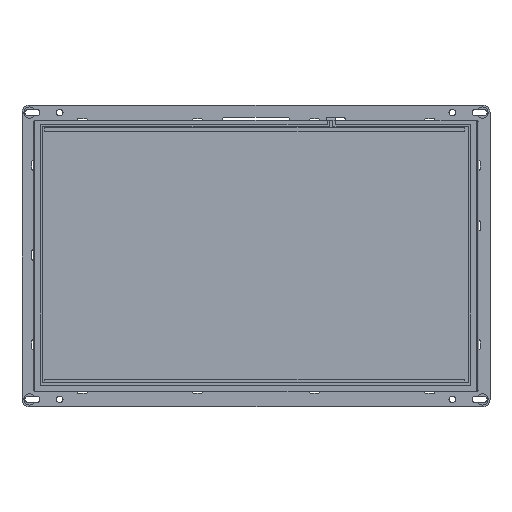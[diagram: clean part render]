
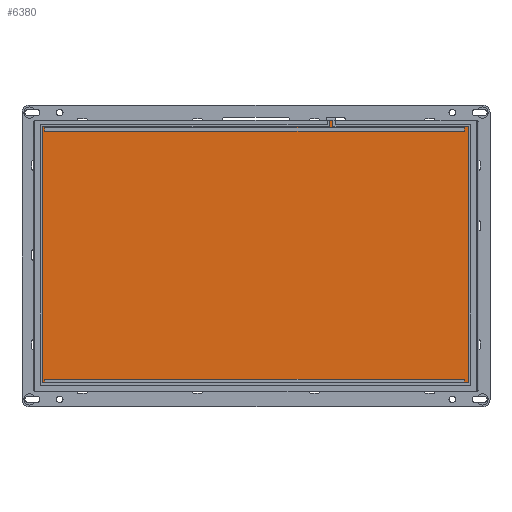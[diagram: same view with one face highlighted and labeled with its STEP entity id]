
A CAD part, top view. The second image highlights one B-rep face of the part: STEP entity #6380.
In plain terms, the highlighted planar face has unit normal (0, 0, 1) as drawn and (0, 1, 0) by its records, which use the part's own axes.
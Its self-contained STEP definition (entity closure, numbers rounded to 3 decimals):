
#133 = VECTOR ( 'NONE', #18846, 1000. ) ;
#206 = CARTESIAN_POINT ( 'NONE',  ( 0., 1.5, 67.3 ) ) ;
#301 = LINE ( 'NONE', #20073, #25330 ) ;
#356 = DIRECTION ( 'NONE',  ( 0., 0., 1. ) ) ;
#1356 = CARTESIAN_POINT ( 'NONE',  ( -112.8, 1.5, 67.3 ) ) ;
#1544 = ORIENTED_EDGE ( 'NONE', *, *, #14802, .T. ) ;
#1867 = ORIENTED_EDGE ( 'NONE', *, *, #18712, .T. ) ;
#2187 = DIRECTION ( 'NONE',  ( 1., 0., 0. ) ) ;
#2304 = LINE ( 'NONE', #20044, #18206 ) ;
#2335 = VERTEX_POINT ( 'NONE', #18086 ) ;
#2440 = VECTOR ( 'NONE', #9225, 1000. ) ;
#2463 = VECTOR ( 'NONE', #12268, 1000. ) ;
#2764 = VERTEX_POINT ( 'NONE', #19720 ) ;
#2828 = CARTESIAN_POINT ( 'NONE',  ( 110.682, 1.5, 0. ) ) ;
#3072 = VECTOR ( 'NONE', #21077, 1000. ) ;
#3245 = CARTESIAN_POINT ( 'NONE',  ( -111.786, 1.5, 0. ) ) ;
#3412 = VERTEX_POINT ( 'NONE', #1356 ) ;
#3749 = LINE ( 'NONE', #12630, #20400 ) ;
#4216 = CARTESIAN_POINT ( 'NONE',  ( 0., 1.5, 0. ) ) ;
#4509 = DIRECTION ( 'NONE',  ( 0., 1., 0. ) ) ;
#4576 = LINE ( 'NONE', #24072, #2440 ) ;
#5236 = CARTESIAN_POINT ( 'NONE',  ( 110.682, 1.5, 65.3 ) ) ;
#5280 = ORIENTED_EDGE ( 'NONE', *, *, #12071, .T. ) ;
#5306 = DIRECTION ( 'NONE',  ( 0., 0., -1. ) ) ;
#5375 = CARTESIAN_POINT ( 'NONE',  ( 0., 1.5, 66.8 ) ) ;
#5445 = CARTESIAN_POINT ( 'NONE',  ( 41.088, 1.5, -72. ) ) ;
#5461 = CARTESIAN_POINT ( 'NONE',  ( 110.682, 1.5, -68. ) ) ;
#5535 = EDGE_CURVE ( 'NONE', #23980, #25592, #4576, .T. ) ;
#5621 = VERTEX_POINT ( 'NONE', #26517 ) ;
#5729 = LINE ( 'NONE', #3245, #22850 ) ;
#5823 = VERTEX_POINT ( 'NONE', #27670 ) ;
#6210 = EDGE_LOOP ( 'NONE', ( #19296, #23078, #7119, #24718 ) ) ;
#6380 = ADVANCED_FACE ( 'NONE', ( #8440, #15149, #6830 ), #23868, .T. ) ;
#6513 = VERTEX_POINT ( 'NONE', #5236 ) ;
#6663 = ORIENTED_EDGE ( 'NONE', *, *, #5535, .T. ) ;
#6771 = VERTEX_POINT ( 'NONE', #28308 ) ;
#6776 = ORIENTED_EDGE ( 'NONE', *, *, #25614, .T. ) ;
#6830 = FACE_BOUND ( 'NONE', #6210, .T. ) ;
#7119 = ORIENTED_EDGE ( 'NONE', *, *, #24007, .T. ) ;
#7446 = LINE ( 'NONE', #16325, #13559 ) ;
#8440 = FACE_OUTER_BOUND ( 'NONE', #21601, .T. ) ;
#8929 = LINE ( 'NONE', #206, #16786 ) ;
#9225 = DIRECTION ( 'NONE',  ( 0., 0., -1. ) ) ;
#9436 = LINE ( 'NONE', #25408, #25964 ) ;
#9649 = VERTEX_POINT ( 'NONE', #27679 ) ;
#9761 = EDGE_CURVE ( 'NONE', #22268, #27254, #25789, .T. ) ;
#9779 = CARTESIAN_POINT ( 'NONE',  ( 0., 1.5, -68.5 ) ) ;
#9905 = ORIENTED_EDGE ( 'NONE', *, *, #12716, .T. ) ;
#10022 = DIRECTION ( 'NONE',  ( 0., 0., 1. ) ) ;
#10024 = DIRECTION ( 'NONE',  ( 0., 0., -1. ) ) ;
#10312 = EDGE_CURVE ( 'NONE', #6771, #23980, #301, .T. ) ;
#11003 = VECTOR ( 'NONE', #25457, 1000. ) ;
#11131 = ORIENTED_EDGE ( 'NONE', *, *, #17597, .T. ) ;
#11420 = LINE ( 'NONE', #13739, #16603 ) ;
#11434 = CARTESIAN_POINT ( 'NONE',  ( -111.786, 1.5, 65.3 ) ) ;
#11577 = LINE ( 'NONE', #2828, #25591 ) ;
#11709 = VECTOR ( 'NONE', #21303, 1000. ) ;
#11798 = ORIENTED_EDGE ( 'NONE', *, *, #10312, .T. ) ;
#12021 = CARTESIAN_POINT ( 'NONE',  ( 41.088, 1.5, -68.5 ) ) ;
#12071 = EDGE_CURVE ( 'NONE', #6513, #9649, #11577, .T. ) ;
#12212 = LINE ( 'NONE', #5375, #3072 ) ;
#12268 = DIRECTION ( 'NONE',  ( 1., 0., 0. ) ) ;
#12295 = VERTEX_POINT ( 'NONE', #22145 ) ;
#12400 = LINE ( 'NONE', #9779, #11003 ) ;
#12630 = CARTESIAN_POINT ( 'NONE',  ( 0., 1.5, 65.3 ) ) ;
#12716 = EDGE_CURVE ( 'NONE', #12295, #6771, #25463, .T. ) ;
#13196 = ORIENTED_EDGE ( 'NONE', *, *, #15558, .T. ) ;
#13279 = CARTESIAN_POINT ( 'NONE',  ( -111.786, 1.5, -66. ) ) ;
#13559 = VECTOR ( 'NONE', #25179, 1000. ) ;
#13645 = ORIENTED_EDGE ( 'NONE', *, *, #24335, .T. ) ;
#13739 = CARTESIAN_POINT ( 'NONE',  ( 39.168, 1.5, 0. ) ) ;
#13881 = EDGE_CURVE ( 'NONE', #5621, #25592, #18951, .T. ) ;
#14740 = VERTEX_POINT ( 'NONE', #11434 ) ;
#14802 = EDGE_CURVE ( 'NONE', #2335, #2764, #12400, .T. ) ;
#14955 = VECTOR ( 'NONE', #25607, 1000. ) ;
#15149 = FACE_BOUND ( 'NONE', #21717, .T. ) ;
#15191 = VERTEX_POINT ( 'NONE', #27263 ) ;
#15558 = EDGE_CURVE ( 'NONE', #5621, #2335, #11420, .T. ) ;
#15688 = CARTESIAN_POINT ( 'NONE',  ( 110.682, 1.5, -66. ) ) ;
#16220 = DIRECTION ( 'NONE',  ( 0., 0., 1. ) ) ;
#16325 = CARTESIAN_POINT ( 'NONE',  ( 110.682, 1.5, 0. ) ) ;
#16427 = AXIS2_PLACEMENT_3D ( 'NONE', #4216, #4509, #2187 ) ;
#16603 = VECTOR ( 'NONE', #356, 1000. ) ;
#16762 = CARTESIAN_POINT ( 'NONE',  ( 112.8, 1.5, 0. ) ) ;
#16786 = VECTOR ( 'NONE', #25332, 1000. ) ;
#17064 = CARTESIAN_POINT ( 'NONE',  ( 117., 1.5, -72. ) ) ;
#17133 = DIRECTION ( 'NONE',  ( 1., 0., 0. ) ) ;
#17597 = EDGE_CURVE ( 'NONE', #9649, #5823, #12212, .T. ) ;
#18086 = CARTESIAN_POINT ( 'NONE',  ( 39.168, 1.5, -68.5 ) ) ;
#18178 = ORIENTED_EDGE ( 'NONE', *, *, #13881, .F. ) ;
#18206 = VECTOR ( 'NONE', #10024, 1000. ) ;
#18461 = EDGE_CURVE ( 'NONE', #2764, #3412, #9436, .T. ) ;
#18712 = EDGE_CURVE ( 'NONE', #14740, #6513, #3749, .T. ) ;
#18846 = DIRECTION ( 'NONE',  ( 1., 0., 0. ) ) ;
#18951 = LINE ( 'NONE', #17064, #2463 ) ;
#19296 = ORIENTED_EDGE ( 'NONE', *, *, #9761, .T. ) ;
#19650 = DIRECTION ( 'NONE',  ( -1., 0., 0. ) ) ;
#19720 = CARTESIAN_POINT ( 'NONE',  ( -112.8, 1.5, -68.5 ) ) ;
#20044 = CARTESIAN_POINT ( 'NONE',  ( -111.786, 1.5, 0. ) ) ;
#20073 = CARTESIAN_POINT ( 'NONE',  ( 0., 1.5, -68.5 ) ) ;
#20400 = VECTOR ( 'NONE', #17133, 1000. ) ;
#21077 = DIRECTION ( 'NONE',  ( -1., 0., 0. ) ) ;
#21087 = VERTEX_POINT ( 'NONE', #5461 ) ;
#21303 = DIRECTION ( 'NONE',  ( -1., 0., 0. ) ) ;
#21457 = LINE ( 'NONE', #27550, #133 ) ;
#21601 = EDGE_LOOP ( 'NONE', ( #11798, #6663, #18178, #13196, #1544, #28194, #13645, #9905 ) ) ;
#21605 = EDGE_CURVE ( 'NONE', #21087, #22268, #7446, .T. ) ;
#21717 = EDGE_LOOP ( 'NONE', ( #11131, #6776, #1867, #5280 ) ) ;
#22145 = CARTESIAN_POINT ( 'NONE',  ( 112.8, 1.5, 67.3 ) ) ;
#22268 = VERTEX_POINT ( 'NONE', #15688 ) ;
#22850 = VECTOR ( 'NONE', #5306, 1000. ) ;
#23078 = ORIENTED_EDGE ( 'NONE', *, *, #25076, .T. ) ;
#23868 = PLANE ( 'NONE',  #16427 ) ;
#23980 = VERTEX_POINT ( 'NONE', #12021 ) ;
#24007 = EDGE_CURVE ( 'NONE', #15191, #21087, #21457, .T. ) ;
#24072 = CARTESIAN_POINT ( 'NONE',  ( 41.088, 1.5, 0. ) ) ;
#24335 = EDGE_CURVE ( 'NONE', #3412, #12295, #8929, .T. ) ;
#24718 = ORIENTED_EDGE ( 'NONE', *, *, #21605, .T. ) ;
#25076 = EDGE_CURVE ( 'NONE', #27254, #15191, #2304, .T. ) ;
#25179 = DIRECTION ( 'NONE',  ( 0., 0., 1. ) ) ;
#25330 = VECTOR ( 'NONE', #19650, 1000. ) ;
#25332 = DIRECTION ( 'NONE',  ( 1., 0., 0. ) ) ;
#25408 = CARTESIAN_POINT ( 'NONE',  ( -112.8, 1.5, 0. ) ) ;
#25457 = DIRECTION ( 'NONE',  ( -1., 0., 0. ) ) ;
#25463 = LINE ( 'NONE', #16762, #14955 ) ;
#25591 = VECTOR ( 'NONE', #16220, 1000. ) ;
#25592 = VERTEX_POINT ( 'NONE', #5445 ) ;
#25607 = DIRECTION ( 'NONE',  ( 0., 0., -1. ) ) ;
#25614 = EDGE_CURVE ( 'NONE', #5823, #14740, #5729, .T. ) ;
#25789 = LINE ( 'NONE', #28250, #11709 ) ;
#25964 = VECTOR ( 'NONE', #10022, 1000. ) ;
#26517 = CARTESIAN_POINT ( 'NONE',  ( 39.168, 1.5, -72. ) ) ;
#27254 = VERTEX_POINT ( 'NONE', #13279 ) ;
#27263 = CARTESIAN_POINT ( 'NONE',  ( -111.786, 1.5, -68. ) ) ;
#27550 = CARTESIAN_POINT ( 'NONE',  ( 0., 1.5, -68. ) ) ;
#27670 = CARTESIAN_POINT ( 'NONE',  ( -111.786, 1.5, 66.8 ) ) ;
#27679 = CARTESIAN_POINT ( 'NONE',  ( 110.682, 1.5, 66.8 ) ) ;
#28194 = ORIENTED_EDGE ( 'NONE', *, *, #18461, .T. ) ;
#28250 = CARTESIAN_POINT ( 'NONE',  ( 0., 1.5, -66. ) ) ;
#28308 = CARTESIAN_POINT ( 'NONE',  ( 112.8, 1.5, -68.5 ) ) ;
